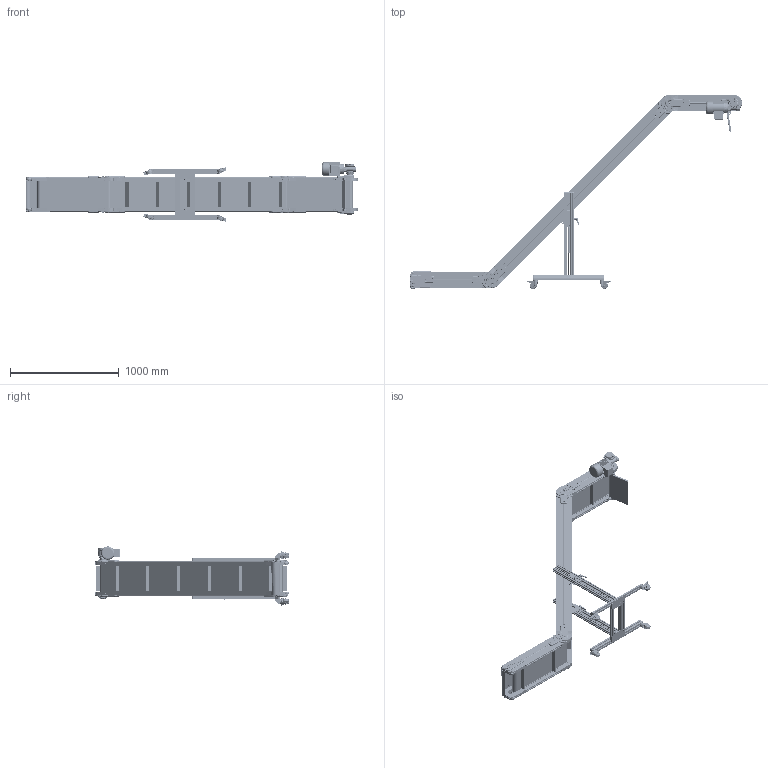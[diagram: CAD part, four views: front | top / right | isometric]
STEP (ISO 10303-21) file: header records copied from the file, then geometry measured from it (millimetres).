
FILE_DESCRIPTION (( 'STEP AP203' ), '1' );
FILE_NAME ('NASTRO_STAMPAGGIO_PLASTICA.step', '2026-05-29T13:33:34', ( 'Utente Windows' ), ( '' ), 'SwSTEP 2.0', 'SolidWorks 2024', '' );
FILE_SCHEMA (( 'CONFIG_CONTROL_DESIGN' ));
Length unit declared in the file: millimetre
Products named in the file (87): 084.831.018.300; 084.831.017; TAPPETO_Z; 084.831.005; VITI TESTA BOMBATA ISO 730_1016UNI7380; 06KS; 084.802.062; 084.802.061; TELAIO_Z_Default<A macchina>; 084.831.009; 0412TRSEA2; 084.831.023; 084.404.003; DADI ESAGONALI AUTOBLOCCANTI UNI 7473 INOX_M5 UNI 7473 INOX; 084.527.013; 084.831.KI.250; CH04P_DX; VITI TCEI UNI 5931_M5x12 UNI 5931; 013.100.050_L; 013.100.045; 084.831.056; 084.831.001_Default<A macchina>; 084.831.022; VITI TE UNI 5739 INOX_M5x25 UNI 5739 INOX; 084.803.018; NASTRO_STAMPAGGIO_PLASTICA; 084.831.021; 084.302.038_084.302.004; 084.802.034_084.802.034; 361102 serie 36; RONDELLE UNI 6592_8.4x17 UNI 6592; 084.831.014; 084.831.033_Default<A macchina>; 084.831.008; CHIAVETTE_A 6x6x60 UNI 6604-69; CUSCINETTI A SFERE_6001-2RS; 084.302.075; 084.301.000 VITI ALUSIC_084.301.003; 084.831.058; VITI TESTA BOMBATA ISO 730_0825UNI7380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
Assembly tree (218 placements, depth 4):
  NASTRO_STAMPAGGIO_PLASTICA
    TAPPETO_Z
    TELAIO_Z_Default<A macchina>
    084.831.KD.44.250_DX
      084.831.004  x2
      084.831.020.300
      084.831.017  x2
      084.802.071
      084.301.000 VITI ALUSIC_084.301.003
      084.802.034_084.802.034  x2
      084.802.061
      VITI TE UNI 5739_M6x16 UNI 5739  x5
      CHIAVETTE_A 6x6x60 UNI 6604-69
      RONDELLE FASCIA LARGA UNI 6593_6.4x24 UNI 6593
      084.808.012
      RONDELLE UNI 6592_8.4x17 UNI 6592
      084.802.062
      084.803.018
      0412TRSEA2  x10
      VITI TCEI UNI 5931_M5x12 UNI 5931  x4
      VITI TE UNI 5739_M8x35 UNI 5739
      084.302.038_084.302.004  x2
    084.831.KI.250
      084.831.001_Default<A macchina>  x2
      084.831.024  x2
      361102 serie 36  x2
      084.831.018.300
      VITI TE UNI 5739_M6x120 UNI5739  x2
      RONDELLE UNI 6592_6.4x12.5 UNI 6592  x2
      084.301.000 VITI ALUSIC_084.301.003  x2
      084.831.031
      084.831.040.250
      084.831.023  x4
      0412TRSEA2  x12
    084.831.KA_250_B  x2
      084.831.003
      084.302.016
      084.301.000 VITI ALUSIC_084.301.003
      084.831.021
      084.831.009
      084.831.014
      084.831.016
      084.831.011
      084.831.005
        084.831.005_L
        CUSCINETTI A SFERE_6001-2RS
      0412TRSEA2
      12UNI7435
    084.831.KA.250_A  x2
      084.831.002
      084.302.016
      084.831.028
      084.301.000 VITI ALUSIC_084.301.003
      RONDELLE FASCIA LARGA UNI 6593_8.4x24 UNI 6593
      084.831.005
        084.831.005_L
        CUSCINETTI A SFERE_6001-2RS
      084.831.021
      084.831.010_Default<A macchina>
      084.831.022
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Bounding box: 3055.32 x 1788.67 x 545.18 mm (x, y, z)
Volume: 23800391.3 mm3; surface area: 19701455.1 mm2
Topology: 380 solids, 389 shells, 34741 faces, 92066 edges, 58903 vertices
Faces by surface type: plane 16098, cylinder 9391, bspline 3921, cone 3458, torus 1449, sphere 424
Entity records: 575459 total; most frequent: CARTESIAN_POINT 179231, ORIENTED_EDGE 85388, DIRECTION 74385, EDGE_CURVE 42694, VERTEX_POINT 27536, AXIS2_PLACEMENT_3D 25288, LINE 23809, VECTOR 23809
